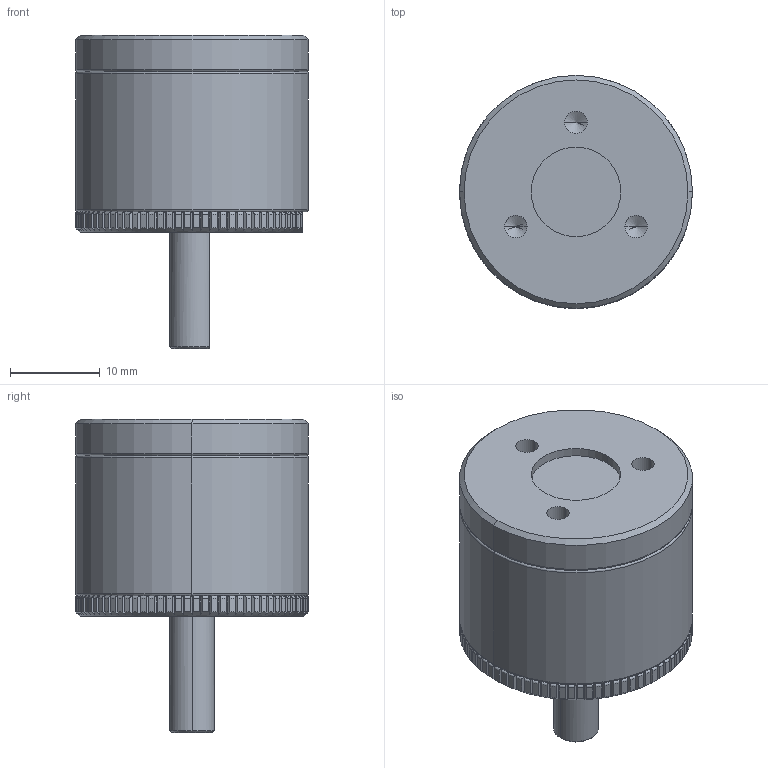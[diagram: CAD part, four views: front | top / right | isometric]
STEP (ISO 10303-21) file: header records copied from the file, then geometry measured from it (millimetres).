
FILE_DESCRIPTION (( 'STEP AP203' ), '1' );
FILE_NAME ('MTL0.06-5MM CUSTOMER SOLID.STEP', '2014-05-23T19:29:15', ( '' ), ( '' ), 'SwSTEP 2.0', 'SolidWorks 2014', '' );
FILE_SCHEMA (( 'CONFIG_CONTROL_DESIGN' ));
Length unit declared in the file: millimetre
Products named in the file (1): MTL0.06-5MM CUSTOMER SOLID
Bounding box: 26 x 26 x 35 mm (x, y, z)
Volume: 11560.4 mm3; surface area: 3540.6 mm2
Topology: 1 solids, 1 shells, 357 faces, 1025 edges, 670 vertices
Faces by surface type: plane 163, cylinder 98, torus 80, cone 16
Entity records: 12278 total; most frequent: CARTESIAN_POINT 3229, ORIENTED_EDGE 2026, DIRECTION 1721, EDGE_CURVE 1013, VERTEX_POINT 670, AXIS2_PLACEMENT_3D 648, LINE 425, VECTOR 425
